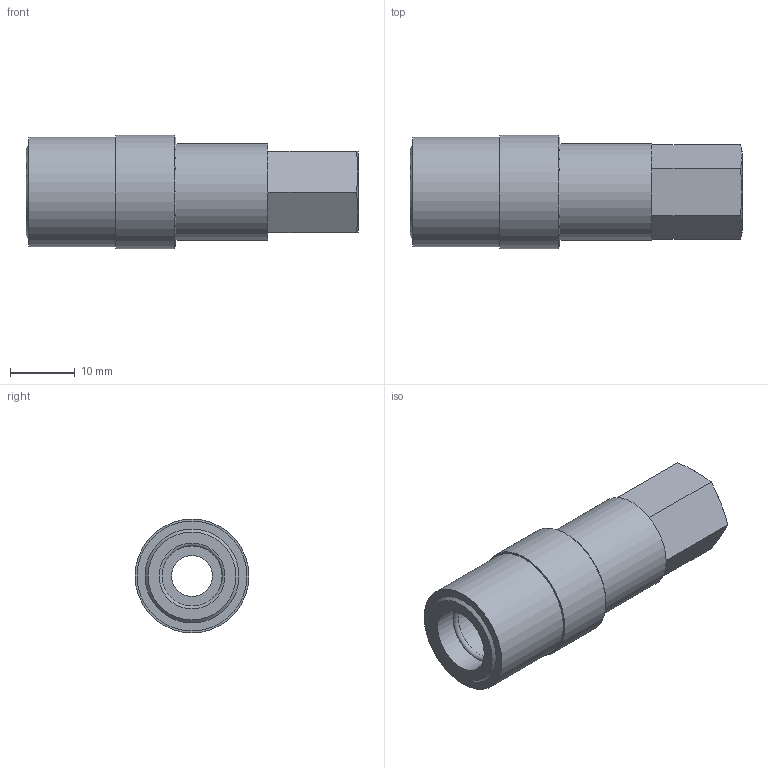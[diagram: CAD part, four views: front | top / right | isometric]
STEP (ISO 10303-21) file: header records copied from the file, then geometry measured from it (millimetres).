
FILE_DESCRIPTION(/* description */ ('STEP AP214'),/* implementation_level */ '2;1');
FILE_NAME(/* name */ 'JS-200-V',/* time_stamp */ '2024-12-19T08:59:22+01:00',/* author */ ('License CC BY-ND 4.0'),/* organization */ ('CADENAS'),/* preprocessor_version */ 'ST-DEVELOPER v19.3',/* originating_system */ 'PARTsolutions',/* authorisation */ ' ');
FILE_SCHEMA (('AUTOMOTIVE_DESIGN {1 0 10303 214 3 1 1}'));
Length unit declared in the file: inch
Products named in the file (1): JS-200-V
Bounding box: 51.38 x 17.63 x 17.63 mm (x, y, z)
Volume: 7140.7 mm3; surface area: 4224.8 mm2
Topology: 1 solids, 1 shells, 33 faces, 64 edges, 39 vertices
Faces by surface type: plane 14, cone 11, cylinder 7, torus 1
Full cylindrical faces by diameter (mm): 6.35 x1, 10.008 x1, 10.211 x2, 14.986 x1, 17.018 x1, 17.628 x1
Entity records: 810 total; most frequent: CARTESIAN_POINT 158, DIRECTION 132, ORIENTED_EDGE 100, AXIS2_PLACEMENT_3D 60, EDGE_LOOP 54, FACE_BOUND 54, EDGE_CURVE 50, VERTEX_POINT 38
